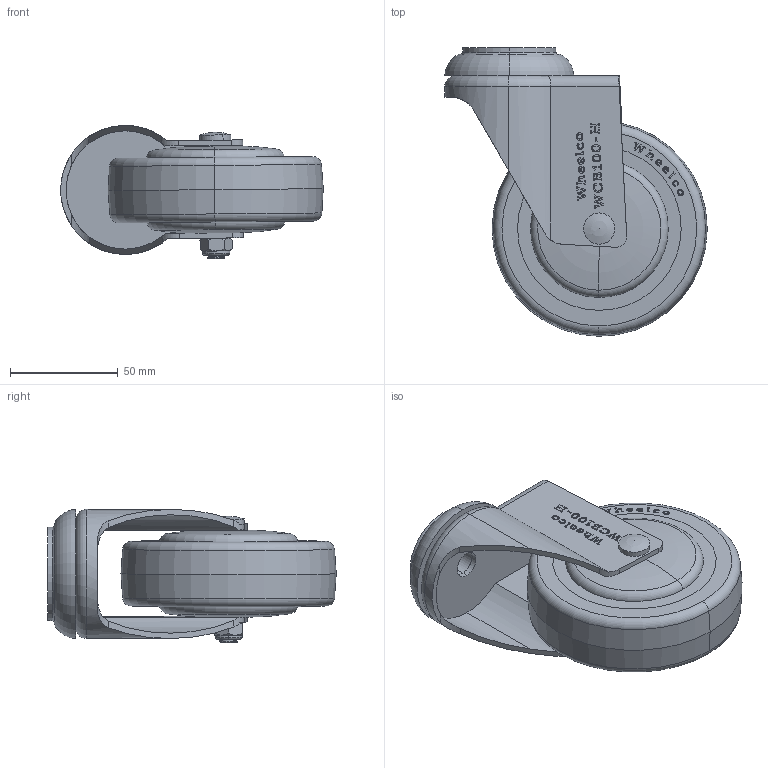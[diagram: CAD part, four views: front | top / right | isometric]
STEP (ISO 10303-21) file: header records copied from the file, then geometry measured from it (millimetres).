
FILE_DESCRIPTION (( 'STEP AP214' ), '1' );
FILE_NAME ('WCB100-H.step', '2024-01-12T00:38:18', ( '' ), ( '' ), 'SwSTEP 2.0', 'SolidWorks 2022', '' );
FILE_SCHEMA (( 'AUTOMOTIVE_DESIGN' ));
Length unit declared in the file: millimetre
Products named in the file (6): WC100-H-12MM; M8Nyloc; 61 TOP; WCB100-H; MCB100; WC-M8x55
Assembly tree (5 placements, depth 2):
  WCB100-H
    61 TOP
    WC100-H-12MM
    WC-M8x55
    M8Nyloc
    MCB100
Bounding box: 122 x 134 x 61.89 mm (x, y, z)
Volume: 316408.8 mm3; surface area: 62025.7 mm2
Topology: 5 solids, 5 shells, 569 faces, 1539 edges, 1017 vertices
Faces by surface type: plane 298, bspline 149, cylinder 80, torus 23, cone 18, sphere 1
Entity records: 29053 total; most frequent: CARTESIAN_POINT 15415, ORIENTED_EDGE 3072, DIRECTION 2131, EDGE_CURVE 1536, VERTEX_POINT 1015, VECTOR 977, LINE 977, EDGE_LOOP 619
